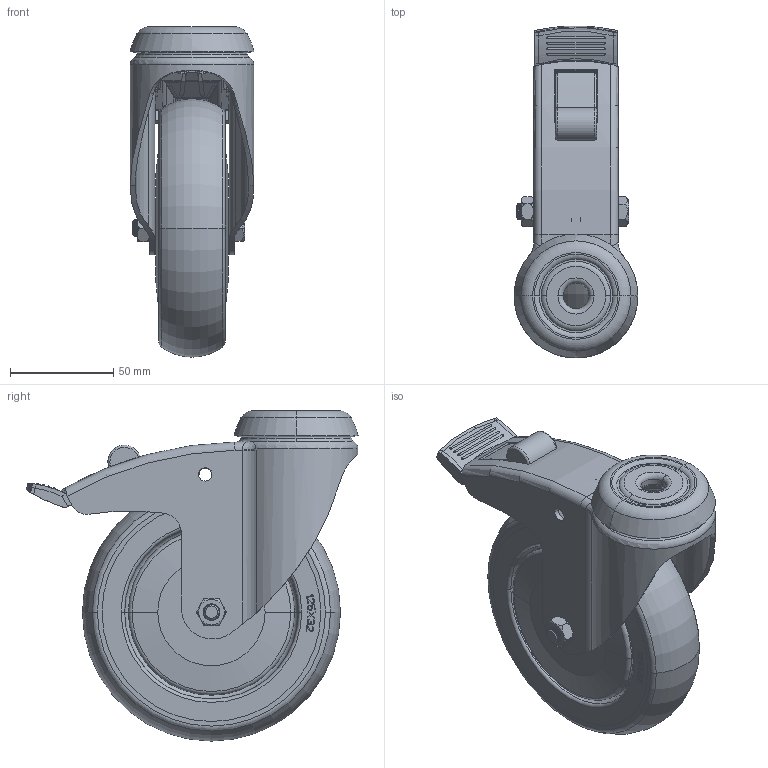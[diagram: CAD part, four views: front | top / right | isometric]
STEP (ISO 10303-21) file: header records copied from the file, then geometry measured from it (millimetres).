
FILE_DESCRIPTION((''),'2;1');
FILE_NAME('125X32_ASM','2007-02-22T',('Administrator'),(''),'PRO/ENGINEER BY PARAMETRIC TECHNOLOGY CORPORATION, 2006010','PRO/ENGINEER BY PARAMETRIC TECHNOLOGY CORPORATION, 2006010','');
FILE_SCHEMA(('CONFIG_CONTROL_DESIGN'));
Length unit declared in the file: millimetre
Products named in the file (14): ZJ; BJ6; 150X32DBP; 150X32SBP-DS; BJ5; M8X60LS; M8LM; 150-TENTE-SAWEI; 150-TENTE-MP; 6202Z; 125X32NS; 125X32DL; 125X32JSG; 125X32_ASM
Assembly tree (14 placements, depth 2):
  125X32_ASM
    ZJ
    BJ6
    150X32DBP
    150X32SBP-DS
    BJ5
    M8X60LS
    M8LM
    150-TENTE-SAWEI
    150-TENTE-MP
    6202Z
    125X32NS
    125X32DL
    125X32JSG  x2
Bounding box: 60 x 160.83 x 160 mm (x, y, z)
Volume: 348573.6 mm3; surface area: 181724.5 mm2
Topology: 70 solids, 72 shells, 1373 faces, 3670 edges, 2246 vertices
Faces by surface type: plane 633, cylinder 312, torus 147, sphere 140, cone 76, bspline 65
Entity records: 47787 total; most frequent: CARTESIAN_POINT 15727, ORIENTED_EDGE 6688, DIRECTION 6480, EDGE_CURVE 3352, AXIS2_PLACEMENT_3D 2291, VERTEX_POINT 2196, VECTOR 1898, LINE 1898
